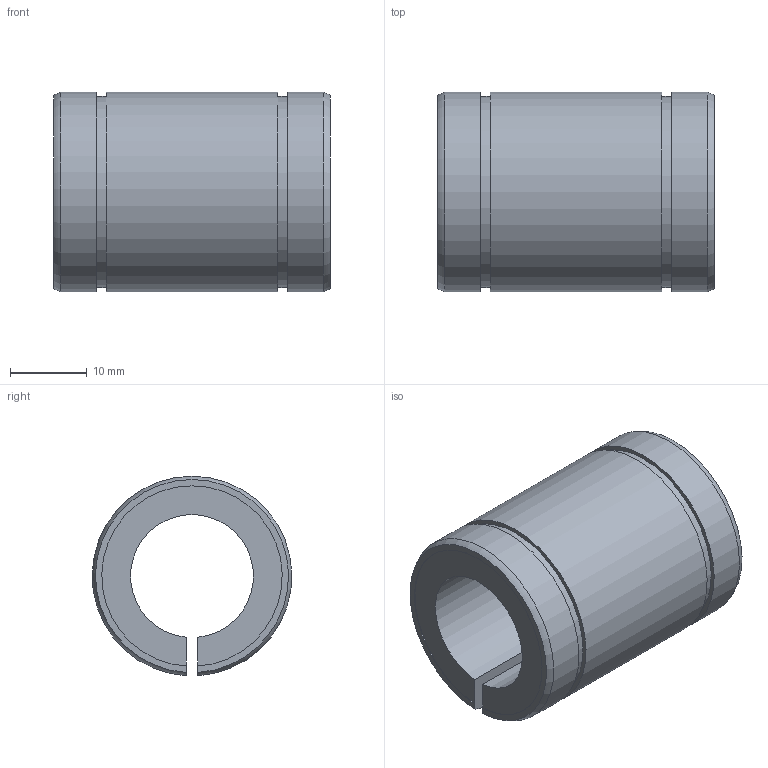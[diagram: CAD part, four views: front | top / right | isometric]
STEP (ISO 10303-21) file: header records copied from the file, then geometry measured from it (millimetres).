
FILE_DESCRIPTION((''),'2;1');
FILE_NAME('D:\製品 (図面)\カタログ用3D\リニアベアリング関連\STEP形式\LE-ADJ\LE16-ADJ.stp','2010-06-03T09:07:42',('Tsuchiya'),(''),'Autodesk Inventor 10','Autodesk Inventor 10','');
FILE_SCHEMA(('AUTOMOTIVE_DESIGN { 1 0 10303 214 1 1 1 1 }'));
Length unit declared in the file: millimetre
Products named in the file (1): LE16-ADJ
Bounding box: 36 x 25.99 x 25.98 mm (x, y, z)
Volume: 11420.5 mm3; surface area: 5756.9 mm2
Topology: 1 solids, 1 shells, 20 faces, 54 edges, 36 vertices
Faces by surface type: plane 10, cylinder 8, torus 2
Entity records: 681 total; most frequent: CARTESIAN_POINT 141, DIRECTION 110, ORIENTED_EDGE 108, EDGE_CURVE 54, AXIS2_PLACEMENT_3D 39, VERTEX_POINT 36, VECTOR 32, LINE 32
